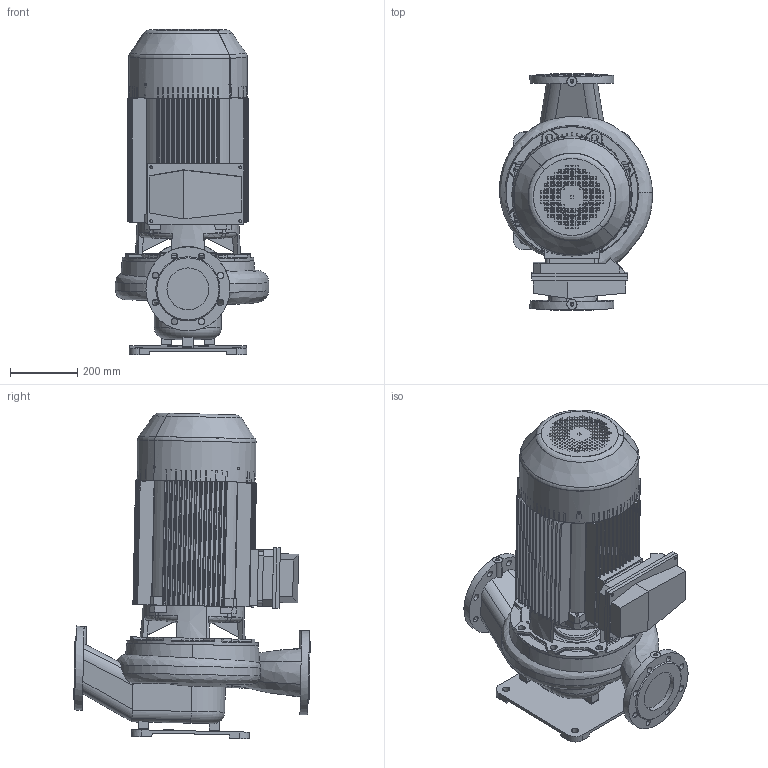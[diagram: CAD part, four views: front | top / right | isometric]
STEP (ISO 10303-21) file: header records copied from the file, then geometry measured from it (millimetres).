
FILE_DESCRIPTION(('STEP AP214'),'1');
FILE_NAME('export.stp','2018-05-28T10:41:03',(' '),(' '),'Spatial InterOp 3D',' ',' ');
FILE_SCHEMA(('AUTOMOTIVE_DESIGN { 1 0 10303 214 1 1 1 1 }'));
Length unit declared in the file: millimetre
Products named in the file (11): W_AL11294220KP187; V_TL110611291154; V_PPAL1129; V_JALKA30940; V_MKP187-K2-BF32; R201280; R200132; R200136; R200138; R200137; R201121
Assembly tree (10 placements, depth 3):
  W_AL11294220KP187
    V_TL110611291154
    V_PPAL1129
    V_JALKA30940
    V_MKP187-K2-BF32
      R201280
      R200132
      R200136
      R200138
      R200137
      R201121
Bounding box: 455.97 x 703.75 x 969.38 mm (x, y, z)
Volume: 42912451.9 mm3; surface area: 4920822 mm2
Topology: 9 solids, 9 shells, 2260 faces, 6615 edges, 4370 vertices
Faces by surface type: plane 1281, cylinder 811, cone 68, torus 68, bspline 21, sphere 11
Entity records: 115964 total; most frequent: CARTESIAN_POINT 18026, ORIENTED_EDGE 13188, DIRECTION 12731, EDGE_CURVE 6594, STYLED_ITEM 5745, PRESENTATION_STYLE_ASSIGNMENT 5745, COLOUR_RGB 5745, LINE 4383
